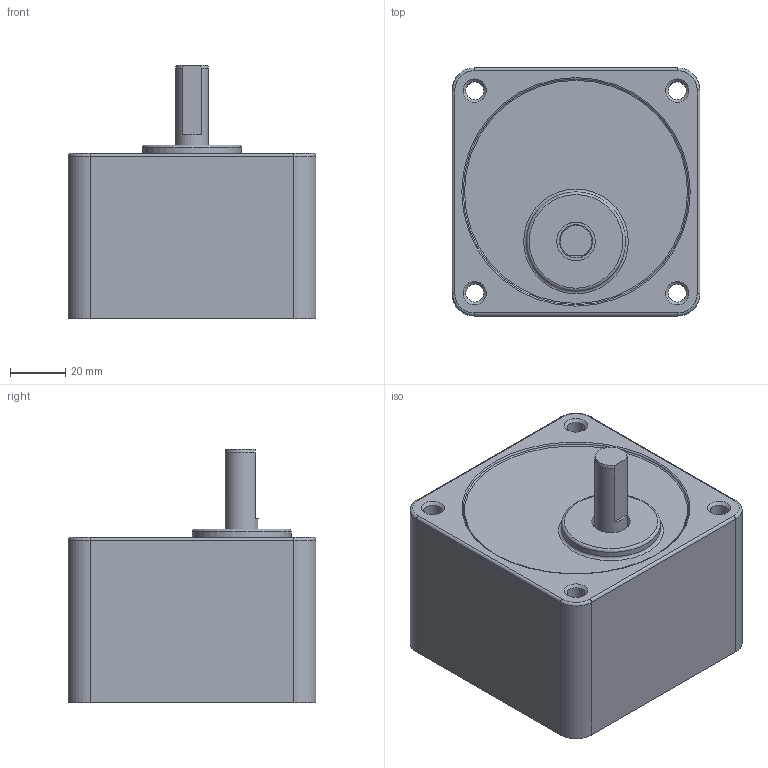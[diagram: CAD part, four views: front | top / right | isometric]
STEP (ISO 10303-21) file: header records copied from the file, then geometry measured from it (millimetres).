
FILE_DESCRIPTION((''),'2;1');
FILE_NAME('\\Spgrnd02\고객배포용도면\3D\01 Standard AC Motor\01 INDUCTION MOTOR\S9I40+S9KB\S9DB20~200.stp','2015-03-24T17:09:30',('smkim'),(''),'Autodesk Inventor 2012','Autodesk Inventor 2012','');
FILE_SCHEMA(('AUTOMOTIVE_DESIGN { 1 0 10303 214 1 1 1 1 }'));
Length unit declared in the file: millimetre
Products named in the file (1): S9DB20~200
Bounding box: 90 x 90 x 92 mm (x, y, z)
Volume: 434559.7 mm3; surface area: 45735.5 mm2
Topology: 1 solids, 1 shells, 44 faces, 93 edges, 57 vertices
Faces by surface type: cylinder 17, plane 14, torus 8, cone 5
Full cylindrical faces by diameter (mm): 6.5 x4, 9 x1, 12 x1, 14 x1, 36 x1, 83 x1
Entity records: 1139 total; most frequent: DIRECTION 212, CARTESIAN_POINT 180, ORIENTED_EDGE 150, AXIS2_PLACEMENT_3D 94, EDGE_CURVE 75, EDGE_LOOP 75, VERTEX_POINT 56, CIRCLE 49
